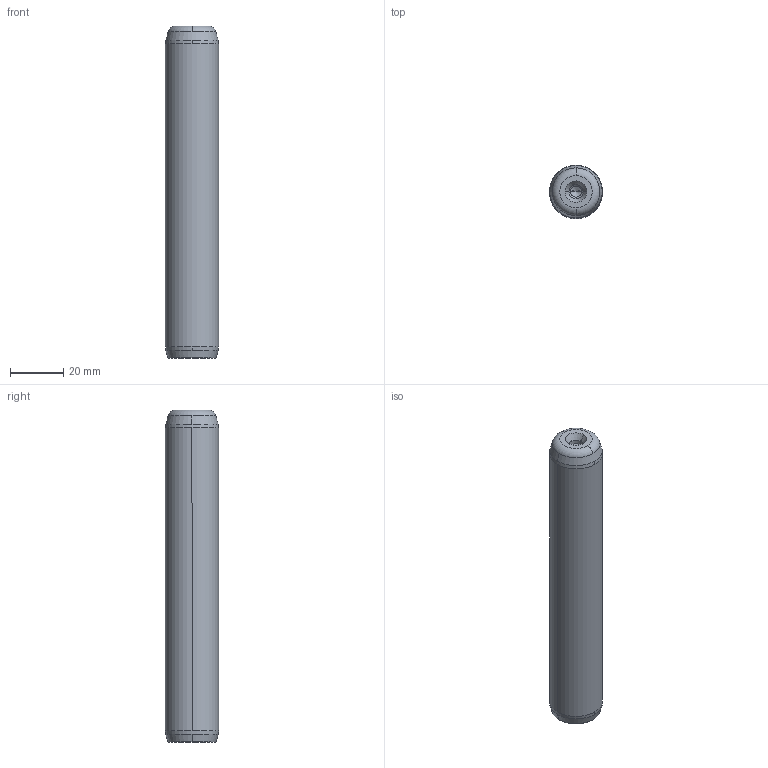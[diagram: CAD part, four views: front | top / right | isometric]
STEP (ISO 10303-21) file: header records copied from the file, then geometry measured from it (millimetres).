
FILE_DESCRIPTION((''),'2;1');
FILE_NAME('P10_020_125.stp','2008-12-23T14:28:30',(''),(''),'Mechanical Desktop 2009','Mechanical Desktop 2009',', , ');
FILE_SCHEMA(('CONFIG_CONTROL_DESIGN'));
Length unit declared in the file: millimetre
Products named in the file (5): Product; ProductAA; blmdl1; ProductA; blmdl1A
Assembly tree (2 placements, depth 3):
  Product
    ProductAA
      blmdl1
  ProductA
  blmdl1A
Bounding box: 20 x 20 x 125 mm (x, y, z)
Volume: 38519.7 mm3; surface area: 8494.5 mm2
Topology: 1 solids, 1 shells, 26 faces, 66 edges, 41 vertices
Faces by surface type: cone 10, cylinder 6, torus 4, bspline 4, plane 2
Entity records: 1172 total; most frequent: CARTESIAN_POINT 310, DIRECTION 162, ORIENTED_EDGE 128, AXIS2_PLACEMENT_3D 73, EDGE_CURVE 64, CIRCLE 48, VERTEX_POINT 41, EDGE_LOOP 27
